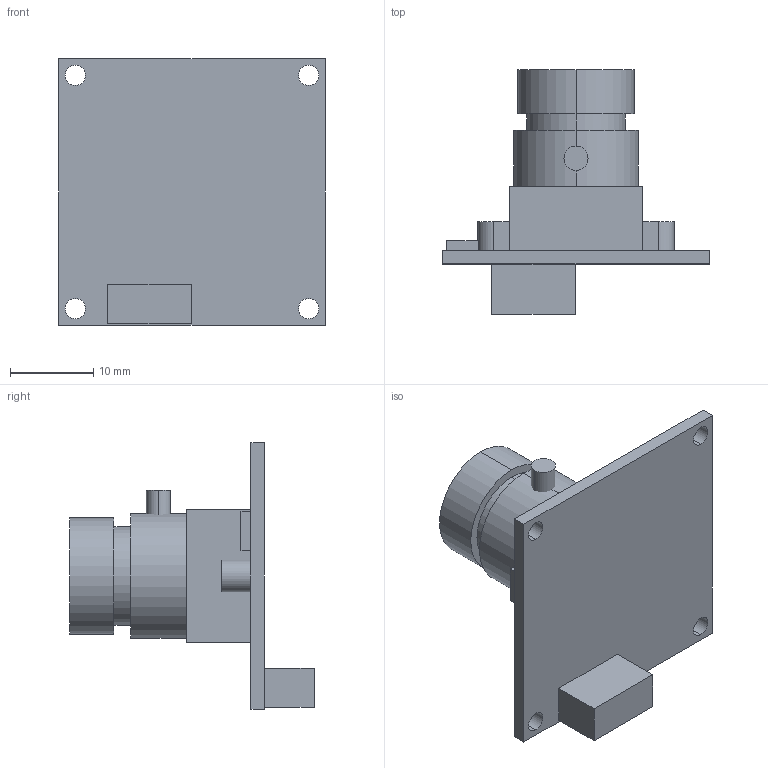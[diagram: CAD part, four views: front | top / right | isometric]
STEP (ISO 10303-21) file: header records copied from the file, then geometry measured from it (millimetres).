
FILE_DESCRIPTION (( 'STEP AP214' ), '1' );
FILE_NAME ('LOW-LIGHT-HD-USB-CAMERA-R1.STEP', '2017-08-28T22:34:41', ( '' ), ( '' ), 'SwSTEP 2.0', 'SolidWorks 2016', '' );
FILE_SCHEMA (( 'AUTOMOTIVE_DESIGN' ));
Length unit declared in the file: millimetre
Products named in the file (1): LOW-LIGHT-HD-USB-CAMERA-R1
Bounding box: 32 x 29.35 x 32 mm (x, y, z)
Volume: 6237.5 mm3; surface area: 3770.7 mm2
Topology: 2 solids, 2 shells, 50 faces, 120 edges, 80 vertices
Faces by surface type: plane 32, cylinder 18
Entity records: 1915 total; most frequent: DIRECTION 258, CARTESIAN_POINT 251, ORIENTED_EDGE 240, EDGE_CURVE 120, AXIS2_PLACEMENT_3D 87, LINE 84, VECTOR 84, VERTEX_POINT 80
